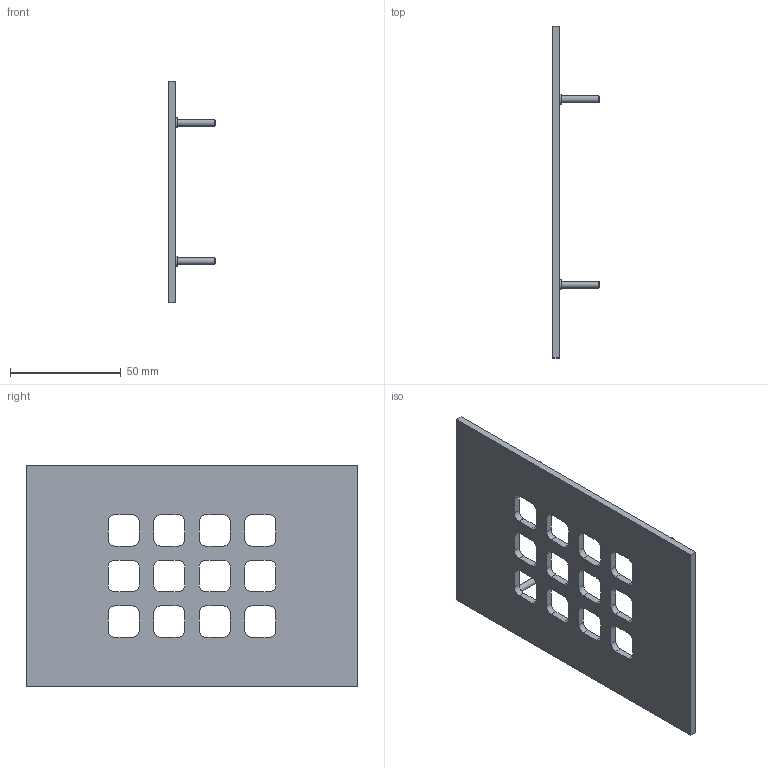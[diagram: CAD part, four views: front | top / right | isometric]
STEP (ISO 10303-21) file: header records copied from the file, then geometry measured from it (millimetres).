
FILE_DESCRIPTION(/* description */ (''),/* implementation_level */ '2;1');
FILE_NAME(/* name */ 'Q:\Neue Struktur\_Bauteile\Supportzeichnungen\12 Keypad\Keypad Module with 12x stainless steel keys.stp',/* time_stamp */ '2022-08-19T08:51:34+02:00',/* author */ ('David Keller'),/* organization */ (''),/* preprocessor_version */ 'ST-DEVELOPER v18.1',/* originating_system */ 'Autodesk Inventor 2020',/* authorisation */ '');
FILE_SCHEMA (('AUTOMOTIVE_DESIGN { 1 0 10303 214 3 1 1 }'));
Length unit declared in the file: millimetre
Products named in the file (1): Keypad Module with 12x stainless steel keys
Bounding box: 21 x 150 x 100 mm (x, y, z)
Volume: 38664.1 mm3; surface area: 29450.5 mm2
Topology: 1 solids, 1 shells, 122 faces, 348 edges, 236 vertices
Faces by surface type: plane 62, cylinder 56, cone 4
Full cylindrical faces by diameter (mm): 3 x4, 4.5 x4
Entity records: 4129 total; most frequent: DIRECTION 726, CARTESIAN_POINT 707, ORIENTED_EDGE 696, EDGE_CURVE 348, AXIS2_PLACEMENT_3D 255, VERTEX_POINT 236, LINE 216, VECTOR 216
